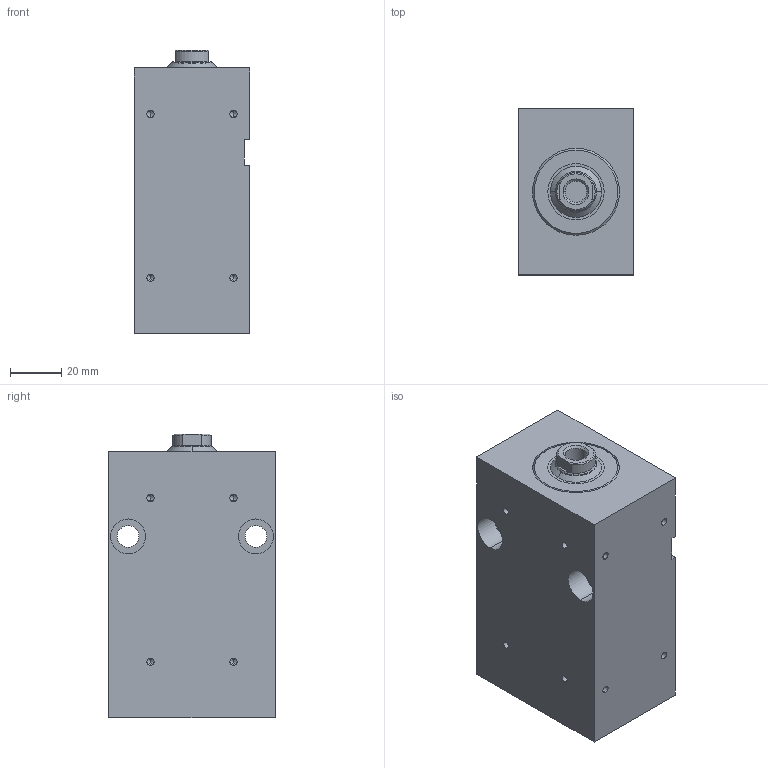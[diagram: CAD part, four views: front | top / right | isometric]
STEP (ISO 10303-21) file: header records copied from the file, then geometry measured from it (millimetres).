
FILE_DESCRIPTION (( 'STEP AP203' ), '1' );
FILE_NAME ('BZ_500.25_16.33.201.060 PP.NS33__DH_0_.STEP', '2022-05-10T14:07:34', ( '' ), ( '' ), 'SwSTEP 2.0', 'SolidWorks 2020', '' );
FILE_SCHEMA (( 'CONFIG_CONTROL_DESIGN' ));
Length unit declared in the file: millimetre
Products named in the file (7): _O-Ring 8x1.5 - Art. 020459^BZ_500.25_16.33.201.060 PP.NS33__DH_0_(2)_BZ_500.25_16.33.201.060 PP.NS33__DH_0_; BZ_500.25_16.33.201.060 PP.NS33__DH_0_; BZ_500.25_16.33.201.060 PP.NS33__DH_0_(2)^BZ_500.25_16.33.201.060 PP.NS33__DH_0_; _Gehaeuse f. BZ500.25_16.33.201.60.N1.m (m = Nut spiegelbildlich33)Nut rechts, Senkungen links00(133frei1330220))7^BZ_500.25_16.33.201.060 PP.NS33__DH_0_(2)_BZ_500.25_16.33.201.060 PP.NS33__DH~; _Dichtungssatz f. BZ_RZ_FZ.25_16.xx.201.60 Artikelnr._ 013322(0)^BZ_500.25_16.33.201.060 PP.NS33__DH_0_(2)_BZ_500.25_16.33.201.060 PP.NS33__DH_0_; _Verschraubung komplett mit Dichtung f. BZ_RZ_FZ.25_16.201, Art.-Nr._ 092861(201)^BZ_500.25_16.33.201.060 PP.NS33__DH_0_(2)_BZ_500.25_16.33.201.060 PP.NS33__DH_0_; _Kolbenstange komplett f. BZ_RZ_FZ.25_16.xx.201.60(0_11 1 10 1.5 0 0 7 15 0 0 0)0^BZ_500.25_16.33.201.060 PP.NS33__DH_0_(2)_BZ_500.25_16.33.201.060 PP.NS33__DH_0_
Assembly tree (7 placements, depth 3):
  BZ_500.25_16.33.201.060 PP.NS33__DH_0_
    BZ_500.25_16.33.201.060 PP.NS33__DH_0_(2)^BZ_500.25_16.33.201.060 PP.NS33__DH_0_
      _Gehaeuse f. BZ500.25_16.33.201.60.N1.m (m = Nut spiegelbildlich33)Nut rechts, Senkungen links00(133frei1330220))7^BZ_500.25_16.33.201.060 PP.NS33__DH_0_(2)_BZ_500.25_16.33.201.060 PP.NS33__DH~
      _Verschraubung komplett mit Dichtung f. BZ_RZ_FZ.25_16.201, Art.-Nr._ 092861(201)^BZ_500.25_16.33.201.060 PP.NS33__DH_0_(2)_BZ_500.25_16.33.201.060 PP.NS33__DH_0_
      _Dichtungssatz f. BZ_RZ_FZ.25_16.xx.201.60 Artikelnr._ 013322(0)^BZ_500.25_16.33.201.060 PP.NS33__DH_0_(2)_BZ_500.25_16.33.201.060 PP.NS33__DH_0_
      _Kolbenstange komplett f. BZ_RZ_FZ.25_16.xx.201.60(0_11 1 10 1.5 0 0 7 15 0 0 0)0^BZ_500.25_16.33.201.060 PP.NS33__DH_0_(2)_BZ_500.25_16.33.201.060 PP.NS33__DH_0_
      _O-Ring 8x1.5 - Art. 020459^BZ_500.25_16.33.201.060 PP.NS33__DH_0_(2)_BZ_500.25_16.33.201.060 PP.NS33__DH_0_  x2
Bounding box: 45 x 65 x 111 mm (x, y, z)
Volume: 277836.9 mm3; surface area: 53736.2 mm2
Topology: 6 solids, 6 shells, 154 faces, 353 edges, 209 vertices
Faces by surface type: cylinder 70, plane 38, cone 34, torus 12
Entity records: 4852 total; most frequent: DIRECTION 783, CARTESIAN_POINT 745, ORIENTED_EDGE 626, AXIS2_PLACEMENT_3D 323, EDGE_CURVE 313, VERTEX_POINT 199, EDGE_LOOP 182, CIRCLE 166
